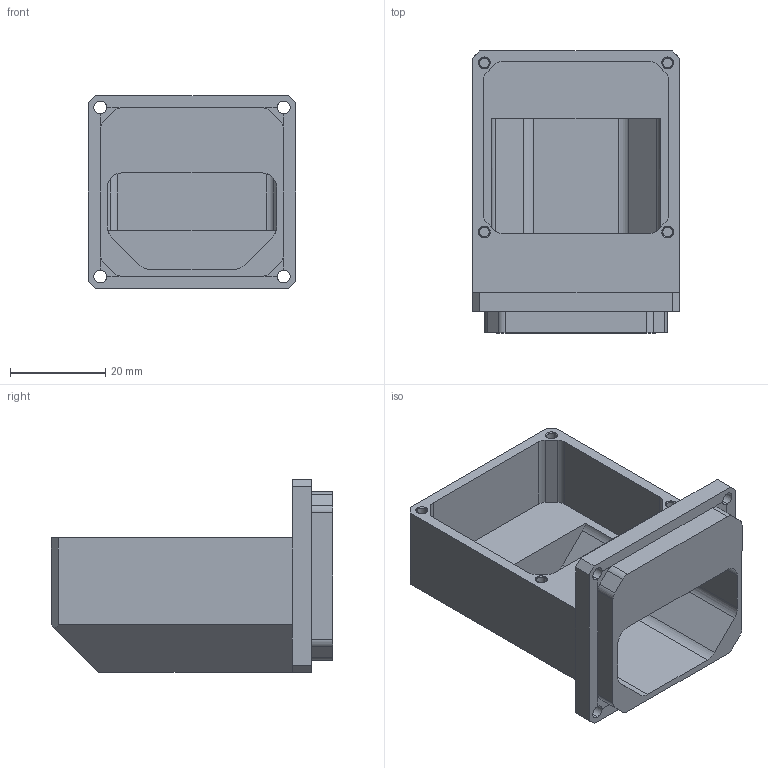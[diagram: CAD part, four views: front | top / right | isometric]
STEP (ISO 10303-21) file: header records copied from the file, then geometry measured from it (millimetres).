
FILE_DESCRIPTION(/* description */ ('VariCAD 2010-2.03 AP-203'),/* implementation_level */ '2;1');
FILE_NAME(/* name */ '0353-12-141',/* time_stamp */ '2011-03-30T11:41:02-06:00',/* author */ (''),/* organization */ (''),/* preprocessor_version */ 'ST-DEVELOPER v12',/* originating_system */ 'VariCAD 2010-2.03; kernel version (20100102)',/* authorisation */ '');
FILE_SCHEMA (('CONFIG_CONTROL_DESIGN'));
Length unit declared in the file: millimetre
Products named in the file (1): Part
Bounding box: 43.5 x 59.15 x 40.5 mm (x, y, z)
Volume: 26915.4 mm3; surface area: 15517.3 mm2
Topology: 5 solids, 5 shells, 145 faces, 360 edges, 230 vertices
Faces by surface type: plane 75, cylinder 62, cone 8
Entity records: 4432 total; most frequent: DIRECTION 794, CARTESIAN_POINT 775, ORIENTED_EDGE 720, EDGE_CURVE 360, AXIS2_PLACEMENT_3D 289, VERTEX_POINT 230, LINE 216, VECTOR 216
